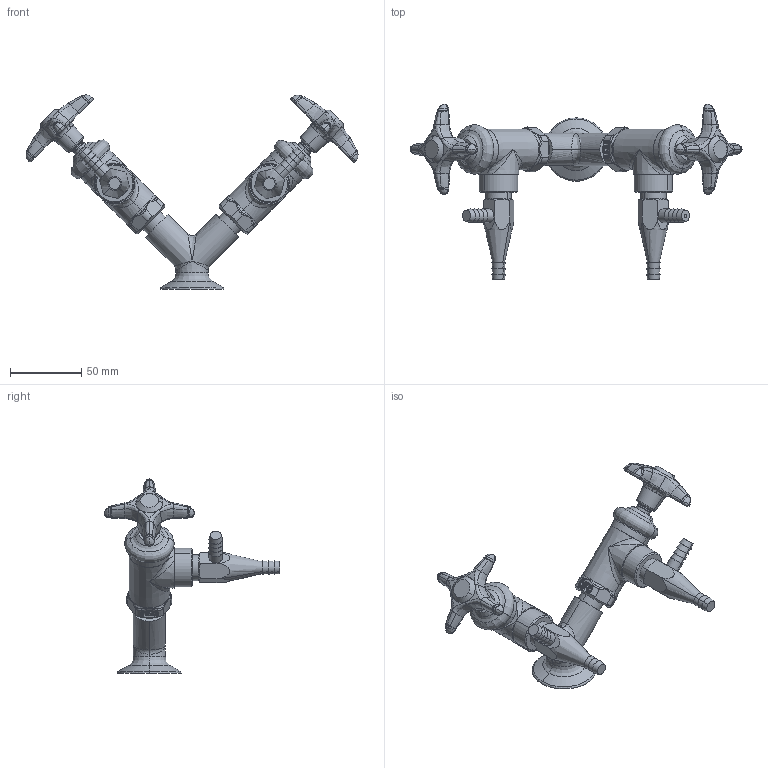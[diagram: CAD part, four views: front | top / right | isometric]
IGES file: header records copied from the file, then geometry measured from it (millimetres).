
Start section:  PTC IGES file: LWV2-C32-60.igs
Global section: file name: LWV2-C32-60.igs; native system: Creo Parametric by PTC Inc.; preprocessor: 2014500; author: usch_engrender; organization: Unknown; date: 20151118.123930; units: inch
Bounding box: 232.46 x 123.15 x 136.01 mm (x, y, z)
Volume: 204100.5 mm3; surface area: 46889.6 mm2
Topology: 1 solids, 6 shells, 902 faces, 2052 edges, 1199 vertices
Faces by surface type: bspline 522, revolution 380
